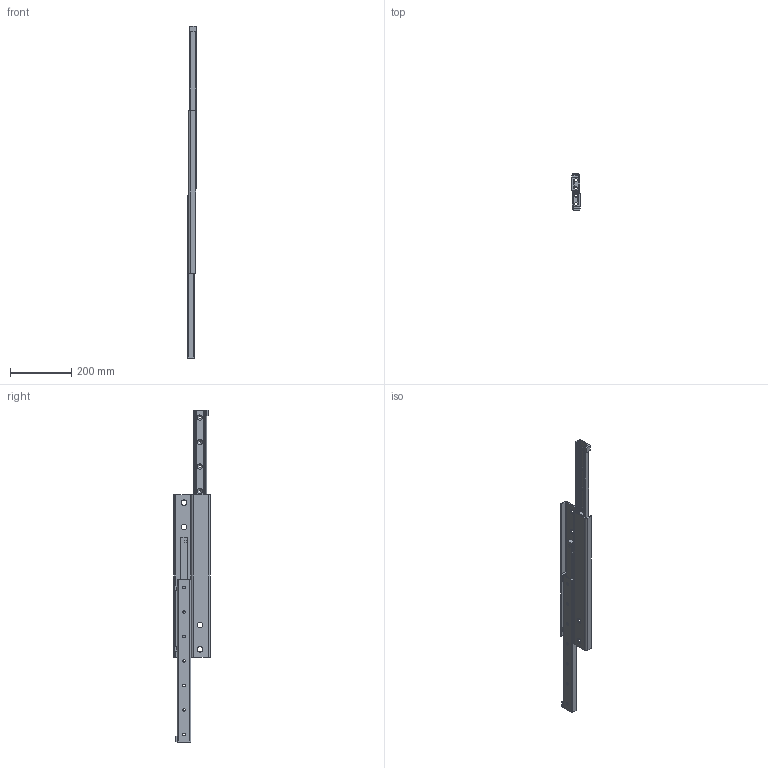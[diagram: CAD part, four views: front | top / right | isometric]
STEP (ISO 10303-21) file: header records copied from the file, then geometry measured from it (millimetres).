
FILE_DESCRIPTION(('STEP AP214'),'1');
FILE_NAME('rail_dss43-530_01.stp','2017-04-17T04:00:22',('TraceParts'),('TraceParts S.A.'),'Spatial InterOp 3D',' ',' ');
FILE_SCHEMA(('automotive_design'));
Length unit declared in the file: millimetre
Products named in the file (3): rail_dss43-530_01_1; rail_dss43-530_01_2; rail_dss43-530_01_3
Bounding box: 28 x 120 x 1086 mm (x, y, z)
Volume: 944277.2 mm3; surface area: 382613.6 mm2
Topology: 3 solids, 3 shells, 254 faces, 686 edges, 448 vertices
Faces by surface type: plane 138, cylinder 88, cone 28
Entity records: 8103 total; most frequent: DIRECTION 1420, CARTESIAN_POINT 1391, ORIENTED_EDGE 1372, EDGE_CURVE 686, AXIS2_PLACEMENT_3D 477, LINE 466, VECTOR 466, VERTEX_POINT 448
